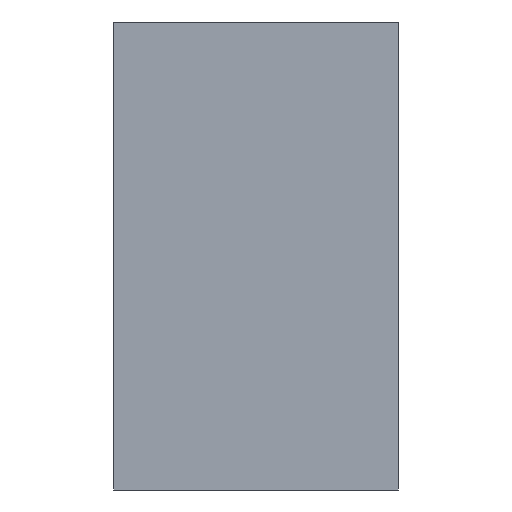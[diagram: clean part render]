
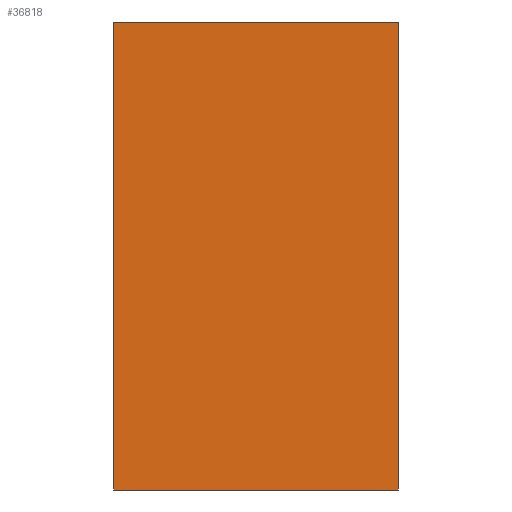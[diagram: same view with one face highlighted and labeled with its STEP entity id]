
A CAD part, front view. The second image highlights one B-rep face of the part: STEP entity #36818.
In plain terms, the highlighted planar face has unit normal (0, -1, 0).
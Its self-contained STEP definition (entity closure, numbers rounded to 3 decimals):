
#2537=FACE_OUTER_BOUND('',#4933,.T.);
#4933=EDGE_LOOP('',(#33436,#33437,#33438,#33439));
#9790=LINE('',#56994,#14770);
#9797=LINE('',#57007,#14777);
#9913=LINE('',#57313,#14893);
#9914=LINE('',#57314,#14894);
#14770=VECTOR('',#46801,10.);
#14777=VECTOR('',#46812,10.);
#14893=VECTOR('',#47176,10.);
#14894=VECTOR('',#47177,10.);
#18190=VERTEX_POINT('',#56991);
#18191=VERTEX_POINT('',#56993);
#18195=VERTEX_POINT('',#57006);
#18261=VERTEX_POINT('',#57312);
#23166=EDGE_CURVE('',#18191,#18190,#9790,.T.);
#23173=EDGE_CURVE('',#18195,#18191,#9797,.T.);
#23325=EDGE_CURVE('',#18190,#18261,#9913,.T.);
#23326=EDGE_CURVE('',#18261,#18195,#9914,.T.);
#33436=ORIENTED_EDGE('',*,*,#23166,.T.);
#33437=ORIENTED_EDGE('',*,*,#23325,.T.);
#33438=ORIENTED_EDGE('',*,*,#23326,.T.);
#33439=ORIENTED_EDGE('',*,*,#23173,.T.);
#35116=PLANE('',#38622);
#36818=ADVANCED_FACE('',(#2537),#35116,.T.);
#38622=AXIS2_PLACEMENT_3D('',#57311,#47174,#47175);
#46801=DIRECTION('',(0.,0.,-1.));
#46812=DIRECTION('',(-1.,0.,0.));
#47174=DIRECTION('center_axis',(0.,-1.,0.));
#47175=DIRECTION('ref_axis',(0.,0.,-1.));
#47176=DIRECTION('',(1.,0.,0.));
#47177=DIRECTION('',(0.,0.,1.));
#56991=CARTESIAN_POINT('',(-260.,-690.,-435.));
#56993=CARTESIAN_POINT('',(-260.,-690.,402.708));
#56994=CARTESIAN_POINT('',(-260.,-690.,275.));
#57006=CARTESIAN_POINT('',(250.,-690.,402.708));
#57007=CARTESIAN_POINT('',(-260.,-690.,402.708));
#57311=CARTESIAN_POINT('Origin',(250.,-690.,275.));
#57312=CARTESIAN_POINT('',(250.,-690.,-435.));
#57313=CARTESIAN_POINT('',(-260.,-690.,-435.));
#57314=CARTESIAN_POINT('',(250.,-690.,275.));
